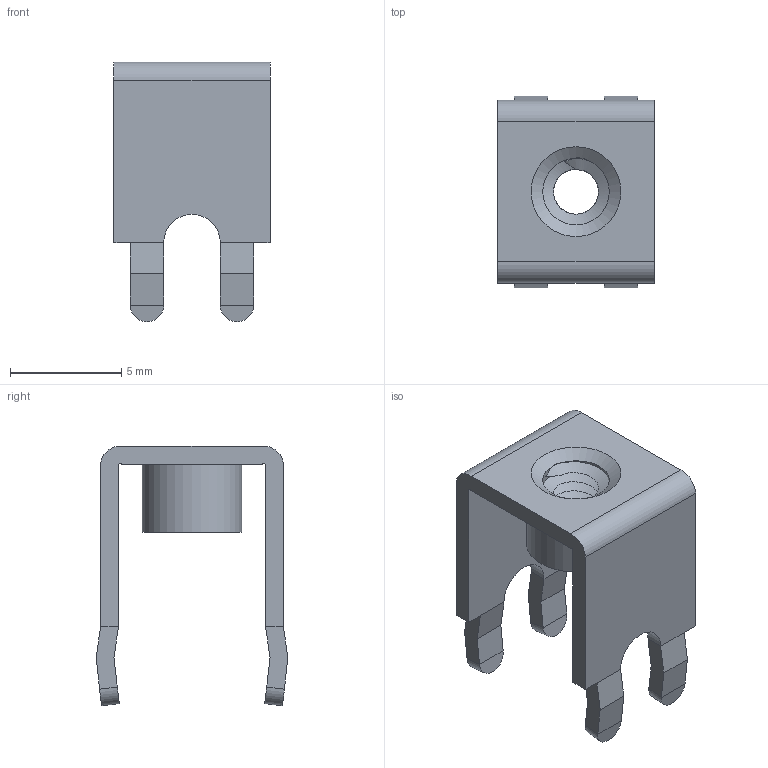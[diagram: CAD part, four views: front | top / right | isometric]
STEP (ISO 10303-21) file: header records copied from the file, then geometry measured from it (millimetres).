
FILE_DESCRIPTION(('FreeCAD Model'),'2;1');
FILE_NAME('Open CASCADE Shape Model','2026-07-27T22:25:42',('FreeCAD'),( 'FreeCAD'),'Open CASCADE STEP processor 7.9','FreeCAD','Unknown');
FILE_SCHEMA(('AUTOMOTIVE_DESIGN { 1 0 10303 214 1 1 1 1 }'));
Length unit declared in the file: millimetre
Products named in the file (1): Open CASCADE STEP translator 7.9 1
Bounding box: 7.01 x 8.61 x 11.65 mm (x, y, z)
Volume: 169.1 mm3; surface area: 588.3 mm2
Topology: 2 solids, 2 shells, 63 faces, 147 edges, 81 vertices
Faces by surface type: plane 45, bspline 18
Entity records: 3007 total; most frequent: CARTESIAN_POINT 1638, ORIENTED_EDGE 278, DIRECTION 234, EDGE_CURVE 139, LINE 88, VECTOR 88, VERTEX_POINT 81, AXIS2_PLACEMENT_3D 73
